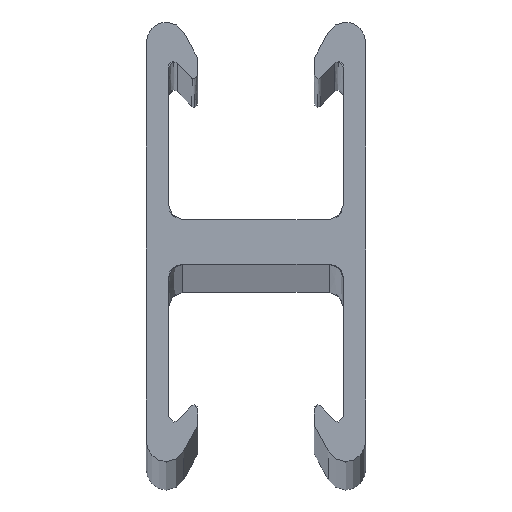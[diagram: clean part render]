
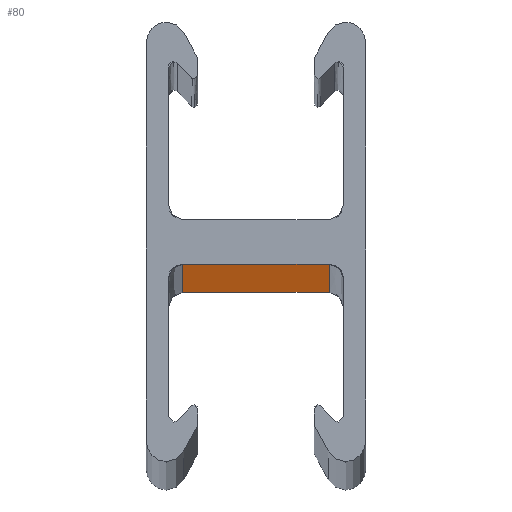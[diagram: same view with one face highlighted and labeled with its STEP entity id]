
A CAD part, top view. The second image highlights one B-rep face of the part: STEP entity #80.
In plain terms, the highlighted planar face has unit normal (0, -1, 0).
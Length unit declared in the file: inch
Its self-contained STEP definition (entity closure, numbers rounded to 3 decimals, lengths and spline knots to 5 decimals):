
#80=ADVANCED_FACE('',(#208),#209,.T.);
#208=FACE_OUTER_BOUND('',#381,.T.);
#209=PLANE('',#382);
#381=EDGE_LOOP('',(#785,#786,#787,#788));
#382=AXIS2_PLACEMENT_3D('',#789,#790,#791);
#785=ORIENTED_EDGE('',*,*,#1237,.T.);
#786=ORIENTED_EDGE('',*,*,#1238,.F.);
#787=ORIENTED_EDGE('',*,*,#1239,.F.);
#788=ORIENTED_EDGE('',*,*,#1240,.T.);
#789=CARTESIAN_POINT('',(0.81076,1.46001,0.0));
#790=DIRECTION('',(0.,-1.,0.0));
#791=DIRECTION('',(1.,0.,-0.0));
#1237=EDGE_CURVE('',#1452,#1453,#1454,.T.);
#1238=EDGE_CURVE('',#1455,#1453,#1456,.T.);
#1239=EDGE_CURVE('',#1457,#1455,#1458,.T.);
#1240=EDGE_CURVE('',#1457,#1452,#1459,.T.);
#1452=VERTEX_POINT('',#1773);
#1453=VERTEX_POINT('',#1774);
#1454=LINE('',#1775,#1776);
#1455=VERTEX_POINT('',#1777);
#1456=LINE('',#1778,#1779);
#1457=VERTEX_POINT('',#1780);
#1458=LINE('',#1781,#1782);
#1459=LINE('',#1783,#1784);
#1773=CARTESIAN_POINT('',(1.35311,1.4601,120.0));
#1774=CARTESIAN_POINT('',(0.26841,1.45991,120.0));
#1775=CARTESIAN_POINT('',(1.35311,1.4601,120.0));
#1776=VECTOR('',#2356,1.0);
#1777=CARTESIAN_POINT('',(0.26841,1.45991,0.0));
#1778=CARTESIAN_POINT('',(0.26841,1.45991,0.0));
#1779=VECTOR('',#2357,1.0);
#1780=CARTESIAN_POINT('',(1.35311,1.4601,0.0));
#1781=CARTESIAN_POINT('',(1.35311,1.4601,0.0));
#1782=VECTOR('',#2358,1.0);
#1783=CARTESIAN_POINT('',(1.35311,1.4601,0.0));
#1784=VECTOR('',#2359,1.0);
#2356=DIRECTION('',(-1.,0.,0.0));
#2357=DIRECTION('',(0.0,0.0,1.0));
#2358=DIRECTION('',(-1.,0.,0.0));
#2359=DIRECTION('',(0.0,0.0,1.0));
